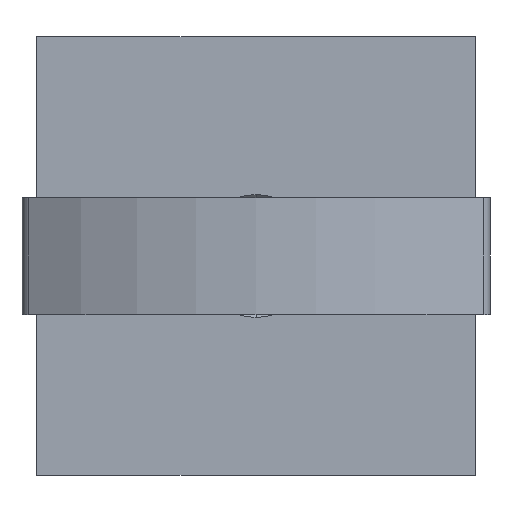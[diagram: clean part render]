
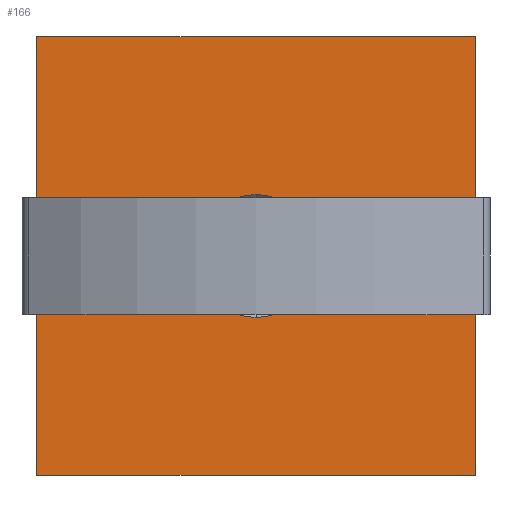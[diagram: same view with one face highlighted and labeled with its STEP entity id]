
A CAD part, front view. The second image highlights one B-rep face of the part: STEP entity #166.
In plain terms, the highlighted planar face has unit normal (0, -1, 0).
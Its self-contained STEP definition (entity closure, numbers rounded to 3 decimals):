
#13 = VECTOR ( 'NONE', #47, 1000. ) ;
#23 = CARTESIAN_POINT ( 'NONE',  ( -7.5, -1.5, -7.5 ) ) ;
#47 = DIRECTION ( 'NONE',  ( 0., 0., 1. ) ) ;
#48 = CARTESIAN_POINT ( 'NONE',  ( -7.5, -1.5, -7.5 ) ) ;
#50 = LINE ( 'NONE', #48, #13 ) ;
#51 = DIRECTION ( 'NONE',  ( 0., 0., 1. ) ) ;
#53 = DIRECTION ( 'NONE',  ( 0., 1., 0. ) ) ;
#61 = CARTESIAN_POINT ( 'NONE',  ( 0., -1.5, 0. ) ) ;
#66 = PLANE ( 'NONE',  #827 ) ;
#67 = DIRECTION ( 'NONE',  ( 0., 0., 1. ) ) ;
#70 = DIRECTION ( 'NONE',  ( 0., 1., 0. ) ) ;
#72 = CARTESIAN_POINT ( 'NONE',  ( 0., -1.5, 0. ) ) ;
#91 = AXIS2_PLACEMENT_3D ( 'NONE', #150, #145, #143 ) ;
#97 = EDGE_CURVE ( 'NONE', #383, #290, #431, .T. ) ;
#111 = CARTESIAN_POINT ( 'NONE',  ( -7.5, -1.5, 7.5 ) ) ;
#114 = CARTESIAN_POINT ( 'NONE',  ( 0., -1.5, 2.1 ) ) ;
#141 = EDGE_CURVE ( 'NONE', #290, #383, #686, .T. ) ;
#143 = DIRECTION ( 'NONE',  ( 0., 0., 1. ) ) ;
#145 = DIRECTION ( 'NONE',  ( 0., 1., 0. ) ) ;
#150 = CARTESIAN_POINT ( 'NONE',  ( 0., -1.5, 0. ) ) ;
#166 = ADVANCED_FACE ( 'NONE', ( #251, #873 ), #66, .F. ) ;
#168 = EDGE_CURVE ( 'NONE', #627, #747, #50, .T. ) ;
#175 = CARTESIAN_POINT ( 'NONE',  ( -7.5, -1.5, -7.5 ) ) ;
#182 = CARTESIAN_POINT ( 'NONE',  ( 0., -1.5, -2.1 ) ) ;
#210 = EDGE_CURVE ( 'NONE', #543, #754, #822, .T. ) ;
#228 = ORIENTED_EDGE ( 'NONE', *, *, #671, .F. ) ;
#230 = ORIENTED_EDGE ( 'NONE', *, *, #97, .T. ) ;
#232 = VECTOR ( 'NONE', #789, 1000. ) ;
#247 = ORIENTED_EDGE ( 'NONE', *, *, #168, .F. ) ;
#251 = FACE_BOUND ( 'NONE', #771, .T. ) ;
#266 = CARTESIAN_POINT ( 'NONE',  ( 7.5, -1.5, -7.5 ) ) ;
#290 = VERTEX_POINT ( 'NONE', #182 ) ;
#293 = VECTOR ( 'NONE', #642, 1000. ) ;
#332 = EDGE_CURVE ( 'NONE', #754, #627, #549, .T. ) ;
#352 = CARTESIAN_POINT ( 'NONE',  ( 7.5, -1.5, 7.5 ) ) ;
#372 = DIRECTION ( 'NONE',  ( 0., 0., -1. ) ) ;
#383 = VERTEX_POINT ( 'NONE', #114 ) ;
#402 = AXIS2_PLACEMENT_3D ( 'NONE', #72, #70, #67 ) ;
#428 = LINE ( 'NONE', #111, #232 ) ;
#431 = CIRCLE ( 'NONE', #91, 2.1 ) ;
#486 = VECTOR ( 'NONE', #372, 1000. ) ;
#543 = VERTEX_POINT ( 'NONE', #352 ) ;
#549 = LINE ( 'NONE', #175, #293 ) ;
#575 = ORIENTED_EDGE ( 'NONE', *, *, #210, .F. ) ;
#607 = ORIENTED_EDGE ( 'NONE', *, *, #141, .T. ) ;
#627 = VERTEX_POINT ( 'NONE', #23 ) ;
#642 = DIRECTION ( 'NONE',  ( -1., 0., 0. ) ) ;
#655 = CARTESIAN_POINT ( 'NONE',  ( 7.5, -1.5, -7.5 ) ) ;
#671 = EDGE_CURVE ( 'NONE', #747, #543, #428, .T. ) ;
#672 = ORIENTED_EDGE ( 'NONE', *, *, #332, .F. ) ;
#686 = CIRCLE ( 'NONE', #402, 2.1 ) ;
#734 = CARTESIAN_POINT ( 'NONE',  ( -7.5, -1.5, 7.5 ) ) ;
#737 = EDGE_LOOP ( 'NONE', ( #247, #672, #575, #228 ) ) ;
#747 = VERTEX_POINT ( 'NONE', #734 ) ;
#754 = VERTEX_POINT ( 'NONE', #655 ) ;
#771 = EDGE_LOOP ( 'NONE', ( #607, #230 ) ) ;
#789 = DIRECTION ( 'NONE',  ( 1., 0., 0. ) ) ;
#822 = LINE ( 'NONE', #266, #486 ) ;
#827 = AXIS2_PLACEMENT_3D ( 'NONE', #61, #53, #51 ) ;
#873 = FACE_OUTER_BOUND ( 'NONE', #737, .T. ) ;
